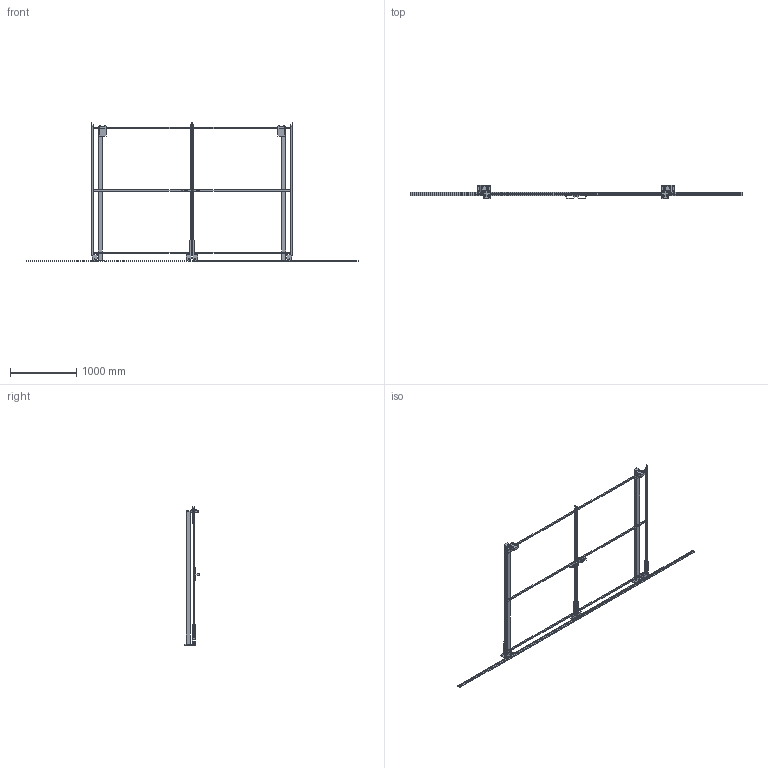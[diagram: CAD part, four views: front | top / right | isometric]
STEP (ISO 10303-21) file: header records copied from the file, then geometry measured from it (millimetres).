
FILE_DESCRIPTION(/* description */ (''),/* implementation_level */ '2;1');
FILE_NAME(/* name */ 'C:\SafeGuarding\ELABORATI\Drawing4_2025-05-13-13-53-28.stp',/* time_stamp */ '2025-05-13T13:53:31+02:00',/* author */ ('admin'),/* organization */ (''),/* preprocessor_version */ 'ST-DEVELOPER v18.1',/* originating_system */ 'AutoCAD Mechanical',/* authorisation */ '');
FILE_SCHEMA (('AUTOMOTIVE_DESIGN { 1 0 10303 214 3 1 1 }'));
Length unit declared in the file: millimetre
Products named in the file (3): Product; R_VFPA.REPE20.15001900; P_VFMA.V260SDU.2020
Assembly tree (4 placements, depth 2):
  Product
    R_VFPA.REPE20.15001900  x2
    P_VFMA.V260SDU.2020  x2
Bounding box: 5000 x 211.41 x 2090 mm (x, y, z)
Volume: 24086517.8 mm3; surface area: 3717671.8 mm2
Topology: 52 solids, 74 shells, 504 faces, 1602 edges, 1549 vertices
Faces by surface type: plane 440, cylinder 56, cone 8
Full cylindrical faces by diameter (mm): 9 x8, 11 x8, 13 x8, 14 x4, 18 x8, 30 x4, 36 x8, 58 x8
Entity records: 15426 total; most frequent: CARTESIAN_POINT 3278, DIRECTION 2324, ORIENTED_EDGE 2224, EDGE_CURVE 1210, LINE 1014, VECTOR 1014, VERTEX_POINT 888, AXIS2_PLACEMENT_3D 655
